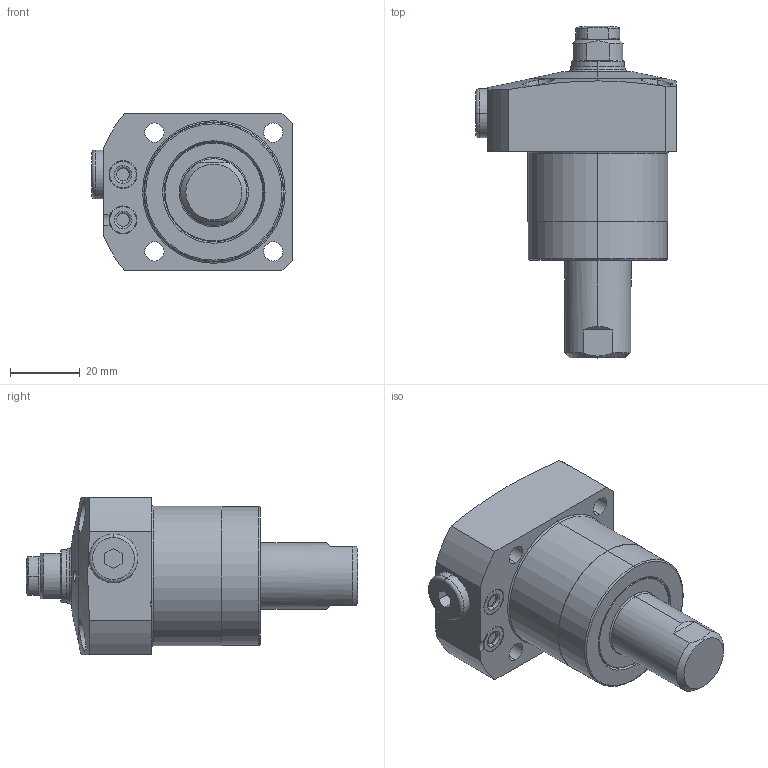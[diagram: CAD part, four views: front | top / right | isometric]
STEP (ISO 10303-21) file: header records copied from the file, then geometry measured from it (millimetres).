
FILE_DESCRIPTION(/* description */ (''),/* implementation_level */ '2;1');
FILE_NAME(/* name */ 'KFSC40-Q.stp',/* time_stamp */ '2026-02-04T15:28:08+08:00',/* author */ (''),/* organization */ (''),/* preprocessor_version */ 'ST-DEVELOPER v16.7',/* originating_system */ 'SIEMENS PLM Software NX 12.0',/* authorisation */ '');
FILE_SCHEMA (('AUTOMOTIVE_DESIGN { 1 0 10303 214 3 1 1 1 }'));
Length unit declared in the file: millimetre
Products named in the file (8): XLC-M10_contactbolt; XLC-M10_Oring; KFSC40-Q-02; KFSC40-Q-01; KFSC40-Q-03; P5-2; KFSC40-Q-04; LC0403-C-Q_step
Assembly tree (8 placements, depth 3):
  LC0403-C-Q_step
    P5-2  x2
    KFSC40-Q-03
    KFSC40-Q-01
    KFSC40-Q-04
      XLC-M10_Oring
      XLC-M10_contactbolt
    KFSC40-Q-02
Bounding box: 57.5 x 95 x 45 mm (x, y, z)
Volume: 95092.3 mm3; surface area: 20273.5 mm2
Topology: 7 solids, 7 shells, 239 faces, 526 edges, 320 vertices
Faces by surface type: cylinder 77, torus 62, plane 59, cone 39, sphere 2
Entity records: 6881 total; most frequent: CARTESIAN_POINT 1452, DIRECTION 1209, ORIENTED_EDGE 996, AXIS2_PLACEMENT_3D 523, EDGE_CURVE 498, VERTEX_POINT 306, CIRCLE 287, EDGE_LOOP 262
